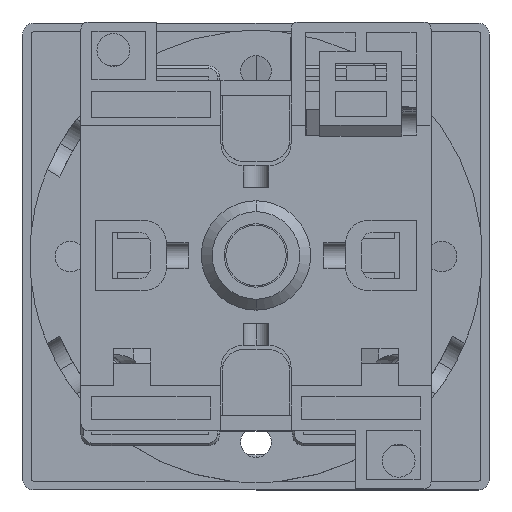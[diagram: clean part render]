
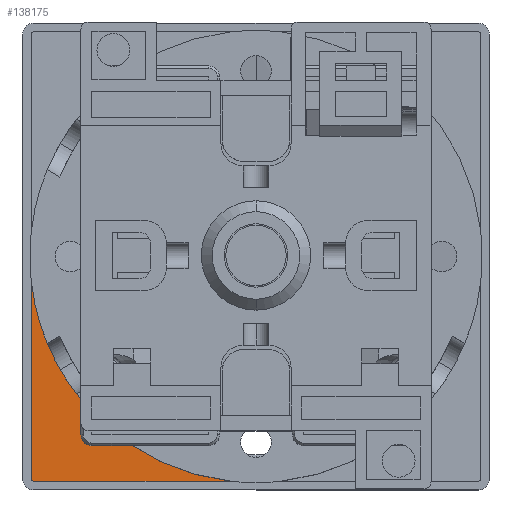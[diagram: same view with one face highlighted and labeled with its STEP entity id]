
A CAD part, top view. The second image highlights one B-rep face of the part: STEP entity #138175.
In plain terms, the highlighted planar face has unit normal (0, 0, 1).
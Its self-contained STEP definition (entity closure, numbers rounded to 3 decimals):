
#3110 = CARTESIAN_POINT ( 'NONE',  ( -24.139, -35.611, -235.982 ) ) ;
#9325 = CARTESIAN_POINT ( 'NONE',  ( -24.139, -35.611, -235.982 ) ) ;
#11681 = LINE ( 'NONE', #128365, #162013 ) ;
#14988 = AXIS2_PLACEMENT_3D ( 'NONE', #3110, #91728, #120994 ) ;
#14991 = EDGE_CURVE ( 'NONE', #157914, #45690, #43196, .T. ) ;
#20478 = DIRECTION ( 'NONE',  ( 0., -1., 0. ) ) ;
#23742 = DIRECTION ( 'NONE',  ( 0., 0., -1. ) ) ;
#33890 = DIRECTION ( 'NONE',  ( 0., 0., -1. ) ) ;
#34974 = CIRCLE ( 'NONE', #75123, 0.3 ) ;
#37786 = CARTESIAN_POINT ( 'NONE',  ( -24.439, -35.611, -235.982 ) ) ;
#41407 = ORIENTED_EDGE ( 'NONE', *, *, #74866, .T. ) ;
#43196 = CIRCLE ( 'NONE', #103411, 31. ) ;
#45690 = VERTEX_POINT ( 'NONE', #177978 ) ;
#46249 = ORIENTED_EDGE ( 'NONE', *, *, #188726, .T. ) ;
#48587 = DIRECTION ( 'NONE',  ( 0., 0., -1. ) ) ;
#50919 = EDGE_CURVE ( 'NONE', #110723, #60162, #183064, .T. ) ;
#52972 = AXIS2_PLACEMENT_3D ( 'NONE', #121198, #33890, #151026 ) ;
#60162 = VERTEX_POINT ( 'NONE', #78267 ) ;
#61770 = CARTESIAN_POINT ( 'NONE',  ( -18.261, -23.945, -235.982 ) ) ;
#63517 = CARTESIAN_POINT ( 'NONE',  ( 36.861, -35.911, -235.982 ) ) ;
#74866 = EDGE_CURVE ( 'NONE', #186174, #157914, #176488, .T. ) ;
#75123 = AXIS2_PLACEMENT_3D ( 'NONE', #9325, #108761, #123407 ) ;
#78267 = CARTESIAN_POINT ( 'NONE',  ( -24.139, -35.911, -235.982 ) ) ;
#78755 = DIRECTION ( 'NONE',  ( -1., 0., 0. ) ) ;
#86379 = CARTESIAN_POINT ( 'NONE',  ( 2.846, -35.911, -235.982 ) ) ;
#87523 = ORIENTED_EDGE ( 'NONE', *, *, #14991, .T. ) ;
#89997 = EDGE_LOOP ( 'NONE', ( #160998, #46249, #41407, #87523, #116329, #182559 ) ) ;
#91728 = DIRECTION ( 'NONE',  ( 0., 0., -1. ) ) ;
#103411 = AXIS2_PLACEMENT_3D ( 'NONE', #155569, #23742, #184243 ) ;
#108761 = DIRECTION ( 'NONE',  ( 0., 0., -1. ) ) ;
#110723 = VERTEX_POINT ( 'NONE', #86379 ) ;
#112489 = FACE_OUTER_BOUND ( 'NONE', #89997, .T. ) ;
#116329 = ORIENTED_EDGE ( 'NONE', *, *, #179349, .F. ) ;
#119751 = PLANE ( 'NONE',  #14988 ) ;
#120994 = DIRECTION ( 'NONE',  ( 0., -1., 0. ) ) ;
#121198 = CARTESIAN_POINT ( 'NONE',  ( 6.361, -5.111, -235.982 ) ) ;
#123407 = DIRECTION ( 'NONE',  ( 0., -1., 0. ) ) ;
#124136 = VERTEX_POINT ( 'NONE', #37786 ) ;
#126021 = CARTESIAN_POINT ( 'NONE',  ( -22.261, -17.017, -235.982 ) ) ;
#128365 = CARTESIAN_POINT ( 'NONE',  ( -24.439, 25.389, -235.982 ) ) ;
#138175 = ADVANCED_FACE ( 'NONE', ( #112489 ), #119751, .F. ) ;
#144166 = DIRECTION ( 'NONE',  ( 0., 1., 0. ) ) ;
#151026 = DIRECTION ( 'NONE',  ( 0., -1., 0. ) ) ;
#155569 = CARTESIAN_POINT ( 'NONE',  ( 6.361, -5.111, -235.982 ) ) ;
#157914 = VERTEX_POINT ( 'NONE', #126021 ) ;
#159320 = CIRCLE ( 'NONE', #180856, 31. ) ;
#160170 = VECTOR ( 'NONE', #78755, 1000. ) ;
#160998 = ORIENTED_EDGE ( 'NONE', *, *, #50919, .F. ) ;
#162013 = VECTOR ( 'NONE', #144166, 1000. ) ;
#165072 = CARTESIAN_POINT ( 'NONE',  ( 6.361, -5.111, -235.982 ) ) ;
#176488 = CIRCLE ( 'NONE', #52972, 31. ) ;
#177978 = CARTESIAN_POINT ( 'NONE',  ( -24.439, -8.626, -235.982 ) ) ;
#179349 = EDGE_CURVE ( 'NONE', #124136, #45690, #11681, .T. ) ;
#180856 = AXIS2_PLACEMENT_3D ( 'NONE', #165072, #48587, #20478 ) ;
#181604 = EDGE_CURVE ( 'NONE', #60162, #124136, #34974, .T. ) ;
#182559 = ORIENTED_EDGE ( 'NONE', *, *, #181604, .F. ) ;
#183064 = LINE ( 'NONE', #63517, #160170 ) ;
#184243 = DIRECTION ( 'NONE',  ( 0., -1., 0. ) ) ;
#186174 = VERTEX_POINT ( 'NONE', #61770 ) ;
#188726 = EDGE_CURVE ( 'NONE', #110723, #186174, #159320, .T. ) ;
